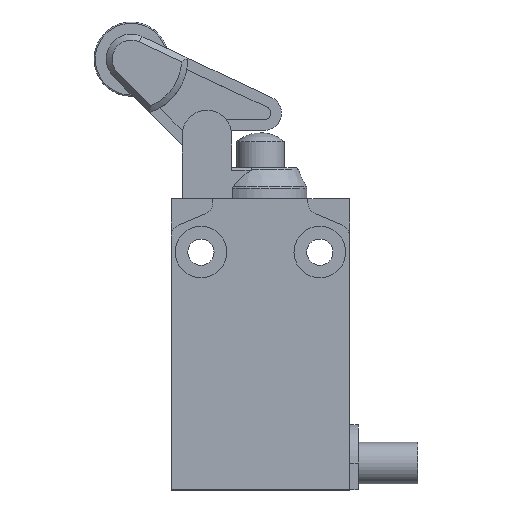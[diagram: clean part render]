
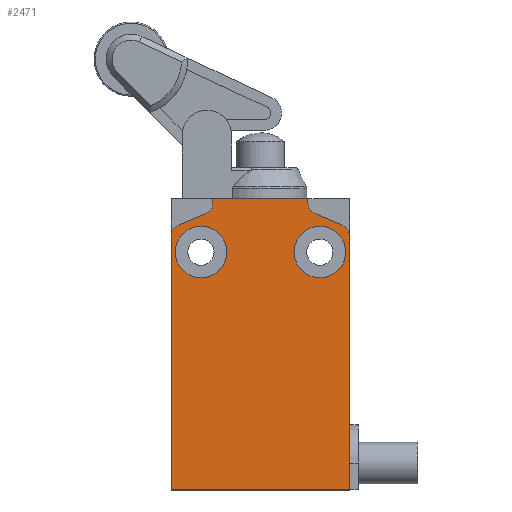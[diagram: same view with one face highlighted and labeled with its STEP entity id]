
A CAD part, top view. The second image highlights one B-rep face of the part: STEP entity #2471.
In plain terms, the highlighted planar face has unit normal (0, 0, 1) as drawn and (0, -1, 0) by its records, which use the part's own axes.
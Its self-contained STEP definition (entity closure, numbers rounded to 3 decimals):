
#175=LINE('',#4001,#383);
#202=LINE('',#4088,#410);
#203=LINE('',#4092,#411);
#204=LINE('',#4094,#412);
#205=LINE('',#4096,#413);
#206=LINE('',#4100,#414);
#207=LINE('',#4104,#415);
#208=LINE('',#4105,#416);
#383=VECTOR('',#3245,42.681);
#410=VECTOR('',#3338,4.978);
#411=VECTOR('',#3341,0.681);
#412=VECTOR('',#3342,16.);
#413=VECTOR('',#3343,0.681);
#414=VECTOR('',#3346,4.978);
#415=VECTOR('',#3349,42.681);
#416=VECTOR('',#3350,30.);
#526=PLANE('',#2711);
#573=FACE_BOUND('',#854,.T.);
#574=FACE_BOUND('',#855,.T.);
#691=FACE_OUTER_BOUND('',#853,.T.);
#853=EDGE_LOOP('',(#2033,#2034,#2035,#2036,#2037,#2038,#2039,#2040,#2041,
#2042,#2043,#2044));
#854=EDGE_LOOP('',(#2045));
#855=EDGE_LOOP('',(#2046));
#953=CIRCLE('',#2667,4.35);
#957=CIRCLE('',#2673,4.35);
#973=CIRCLE('',#2709,2.);
#975=CIRCLE('',#2712,2.);
#976=CIRCLE('',#2713,2.);
#977=CIRCLE('',#2714,2.);
#1129=VERTEX_POINT('',#3955);
#1133=VERTEX_POINT('',#3965);
#1149=VERTEX_POINT('',#3998);
#1150=VERTEX_POINT('',#4000);
#1175=VERTEX_POINT('',#4081);
#1177=VERTEX_POINT('',#4087);
#1178=VERTEX_POINT('',#4089);
#1179=VERTEX_POINT('',#4091);
#1180=VERTEX_POINT('',#4093);
#1181=VERTEX_POINT('',#4095);
#1182=VERTEX_POINT('',#4097);
#1183=VERTEX_POINT('',#4099);
#1184=VERTEX_POINT('',#4101);
#1185=VERTEX_POINT('',#4103);
#1416=EDGE_CURVE('',#1129,#1129,#953,.T.);
#1420=EDGE_CURVE('',#1133,#1133,#957,.T.);
#1436=EDGE_CURVE('',#1149,#1150,#175,.T.);
#1474=EDGE_CURVE('',#1175,#1149,#973,.T.);
#1477=EDGE_CURVE('',#1175,#1177,#202,.T.);
#1478=EDGE_CURVE('',#1178,#1177,#975,.T.);
#1479=EDGE_CURVE('',#1178,#1179,#203,.T.);
#1480=EDGE_CURVE('',#1180,#1179,#204,.T.);
#1481=EDGE_CURVE('',#1180,#1181,#205,.T.);
#1482=EDGE_CURVE('',#1182,#1181,#976,.T.);
#1483=EDGE_CURVE('',#1182,#1183,#206,.T.);
#1484=EDGE_CURVE('',#1184,#1183,#977,.T.);
#1485=EDGE_CURVE('',#1185,#1184,#207,.T.);
#1486=EDGE_CURVE('',#1150,#1185,#208,.T.);
#2033=ORIENTED_EDGE('',*,*,#1474,.F.);
#2034=ORIENTED_EDGE('',*,*,#1477,.T.);
#2035=ORIENTED_EDGE('',*,*,#1478,.F.);
#2036=ORIENTED_EDGE('',*,*,#1479,.T.);
#2037=ORIENTED_EDGE('',*,*,#1480,.F.);
#2038=ORIENTED_EDGE('',*,*,#1481,.T.);
#2039=ORIENTED_EDGE('',*,*,#1482,.F.);
#2040=ORIENTED_EDGE('',*,*,#1483,.T.);
#2041=ORIENTED_EDGE('',*,*,#1484,.F.);
#2042=ORIENTED_EDGE('',*,*,#1485,.F.);
#2043=ORIENTED_EDGE('',*,*,#1486,.F.);
#2044=ORIENTED_EDGE('',*,*,#1436,.F.);
#2045=ORIENTED_EDGE('',*,*,#1420,.T.);
#2046=ORIENTED_EDGE('',*,*,#1416,.T.);
#2471=ADVANCED_FACE('',(#691,#573,#574),#526,.T.);
#2667=AXIS2_PLACEMENT_3D('',#3956,#3209,#3210);
#2673=AXIS2_PLACEMENT_3D('',#3966,#3221,#3222);
#2709=AXIS2_PLACEMENT_3D('',#4082,#3331,#3332);
#2711=AXIS2_PLACEMENT_3D('',#4086,#3336,#3337);
#2712=AXIS2_PLACEMENT_3D('',#4090,#3339,#3340);
#2713=AXIS2_PLACEMENT_3D('',#4098,#3344,#3345);
#2714=AXIS2_PLACEMENT_3D('',#4102,#3347,#3348);
#3209=DIRECTION('center_axis',(0.,1.,0.));
#3210=DIRECTION('ref_axis',(-1.,0.,0.));
#3221=DIRECTION('center_axis',(0.,1.,0.));
#3222=DIRECTION('ref_axis',(1.,0.,0.));
#3245=DIRECTION('',(0.,0.,-1.));
#3331=DIRECTION('center_axis',(0.,1.,0.));
#3332=DIRECTION('ref_axis',(0.835,0.,0.55));
#3336=DIRECTION('center_axis',(0.,-1.,0.));
#3337=DIRECTION('ref_axis',(1.,0.,0.));
#3338=DIRECTION('',(-0.919,0.,0.394));
#3339=DIRECTION('center_axis',(0.,-1.,0.));
#3340=DIRECTION('ref_axis',(-0.835,0.,-0.55));
#3341=DIRECTION('',(0.,0.,1.));
#3342=DIRECTION('',(1.,0.,0.));
#3343=DIRECTION('',(0.,0.,-1.));
#3344=DIRECTION('center_axis',(0.,-1.,0.));
#3345=DIRECTION('ref_axis',(0.835,0.,-0.55));
#3346=DIRECTION('',(-0.919,0.,-0.394));
#3347=DIRECTION('center_axis',(0.,1.,0.));
#3348=DIRECTION('ref_axis',(-0.835,0.,0.55));
#3349=DIRECTION('',(0.,0.,1.));
#3350=DIRECTION('',(-1.,0.,0.));
#3955=CARTESIAN_POINT('',(-5.65,-16.,0.));
#3956=CARTESIAN_POINT('Origin',(-10.,-16.,0.));
#3965=CARTESIAN_POINT('',(5.65,-16.,0.));
#3966=CARTESIAN_POINT('Origin',(10.,-16.,0.));
#3998=CARTESIAN_POINT('',(15.,-16.,2.681));
#4000=CARTESIAN_POINT('',(15.,-16.,-40.));
#4001=CARTESIAN_POINT('',(15.,-16.,2.681));
#4081=CARTESIAN_POINT('',(13.788,-16.,4.519));
#4082=CARTESIAN_POINT('Origin',(13.,-16.,2.681));
#4086=CARTESIAN_POINT('Origin',(0.,-16.,-15.5));
#4087=CARTESIAN_POINT('',(9.212,-16.,6.481));
#4088=CARTESIAN_POINT('',(13.788,-16.,4.519));
#4089=CARTESIAN_POINT('',(8.,-16.,8.319));
#4090=CARTESIAN_POINT('Origin',(10.,-16.,8.319));
#4091=CARTESIAN_POINT('',(8.,-16.,9.));
#4092=CARTESIAN_POINT('',(8.,-16.,8.319));
#4093=CARTESIAN_POINT('',(-8.,-16.,9.));
#4094=CARTESIAN_POINT('',(-8.,-16.,9.));
#4095=CARTESIAN_POINT('',(-8.,-16.,8.319));
#4096=CARTESIAN_POINT('',(-8.,-16.,9.));
#4097=CARTESIAN_POINT('',(-9.212,-16.,6.481));
#4098=CARTESIAN_POINT('Origin',(-10.,-16.,8.319));
#4099=CARTESIAN_POINT('',(-13.788,-16.,4.519));
#4100=CARTESIAN_POINT('',(-9.212,-16.,6.481));
#4101=CARTESIAN_POINT('',(-15.,-16.,2.681));
#4102=CARTESIAN_POINT('Origin',(-13.,-16.,2.681));
#4103=CARTESIAN_POINT('',(-15.,-16.,-40.));
#4104=CARTESIAN_POINT('',(-15.,-16.,-40.));
#4105=CARTESIAN_POINT('',(15.,-16.,-40.));
